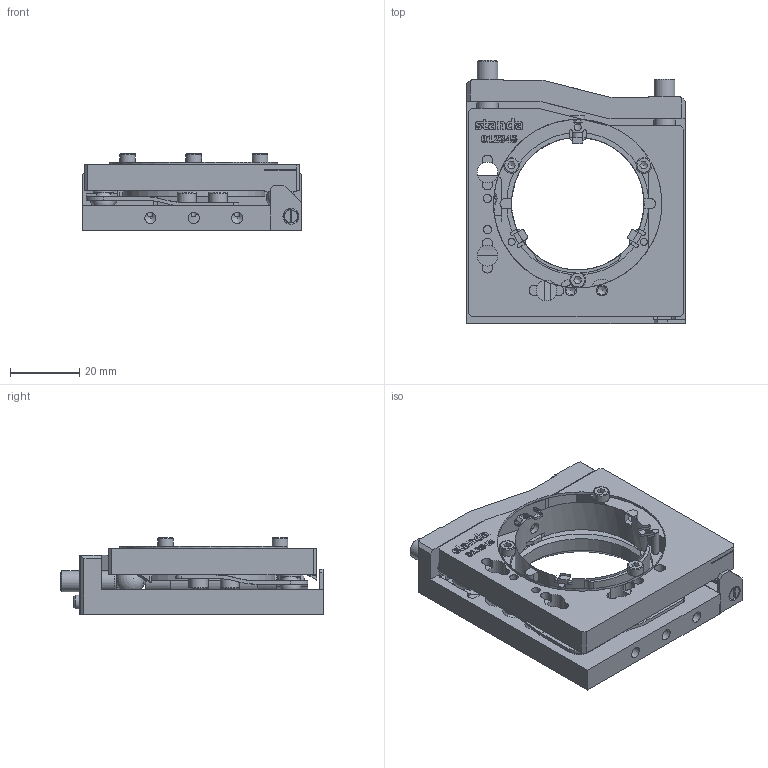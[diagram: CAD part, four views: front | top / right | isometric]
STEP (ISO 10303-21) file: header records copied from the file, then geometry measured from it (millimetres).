
FILE_DESCRIPTION(/* description */ (''),/* implementation_level */ '2;1');
FILE_NAME(/* name */ '5VDOM-1.5; 5KVDOM-1.5.stp',/* time_stamp */ '2024-03-07T11:01:22+02:00',/* author */ ('dsgn36'),/* organization */ (''),/* preprocessor_version */ 'ST-DEVELOPER v20',/* originating_system */ 'Autodesk Inventor 2024',/* authorisation */ '');
FILE_SCHEMA (('AUTOMOTIVE_DESIGN { 1 0 10303 214 3 1 1 }'));
Length unit declared in the file: millimetre
Products named in the file (1): 5VDOM-1.5 SB_Simplify_1
Bounding box: 63 x 75.76 x 22 mm (x, y, z)
Volume: 41125.1 mm3; surface area: 24270.4 mm2
Topology: 5 solids, 5 shells, 781 faces, 2123 edges, 1382 vertices
Faces by surface type: plane 422, cylinder 156, bspline 126, cone 57, sphere 11, torus 9
Full cylindrical faces by diameter (mm): 1.5 x4, 1.567 x1, 2 x1, 2.013 x5, 2.459 x4, 2.5 x1, 3 x7, 3.2 x2, 3.242 x4, 3.3 x1, 3.4 x2, 4 x3, 4.5 x3, 4.76 x2, 5.5 x5, 6 x14, 6.1 x1, 6.5 x3, 38.2 x1, 40 x1, 41 x1, 48.5 x1
Entity records: 26836 total; most frequent: CARTESIAN_POINT 6990, ORIENTED_EDGE 4192, DIRECTION 3536, EDGE_CURVE 2096, VERTEX_POINT 1394, LINE 1230, VECTOR 1230, AXIS2_PLACEMENT_3D 1153
